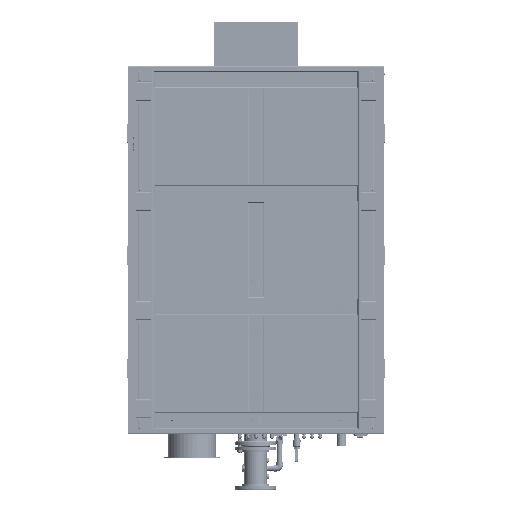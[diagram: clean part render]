
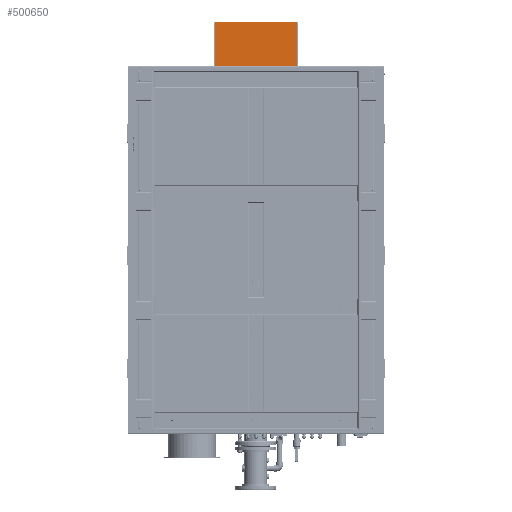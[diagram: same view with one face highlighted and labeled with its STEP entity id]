
A CAD part, front view. The second image highlights one B-rep face of the part: STEP entity #500650.
In plain terms, the highlighted planar face has unit normal (0, -1, 0) as drawn and (0, 0, -1) by its records, which use the part's own axes.
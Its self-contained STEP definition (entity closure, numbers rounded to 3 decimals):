
#6080 = ORIENTED_EDGE ( 'NONE', *, *, #734834, .F. ) ;
#25458 = LINE ( 'NONE', #768162, #167828 ) ;
#28781 = CARTESIAN_POINT ( 'NONE',  ( 254.75, -147.429, -1.5 ) ) ;
#39303 = ORIENTED_EDGE ( 'NONE', *, *, #609031, .F. ) ;
#89527 = FACE_OUTER_BOUND ( 'NONE', #434275, .T. ) ;
#144928 = EDGE_CURVE ( 'NONE', #748861, #819373, #196801, .T. ) ;
#146165 = CARTESIAN_POINT ( 'NONE',  ( 0., 0., -1.5 ) ) ;
#167828 = VECTOR ( 'NONE', #503088, 1000. ) ;
#196801 = LINE ( 'NONE', #848752, #537736 ) ;
#202787 = PLANE ( 'NONE',  #305740 ) ;
#293734 = DIRECTION ( 'NONE',  ( 0., 1., 0. ) ) ;
#305740 = AXIS2_PLACEMENT_3D ( 'NONE', #146165, #411224, #554381 ) ;
#323077 = DIRECTION ( 'NONE',  ( -1., 0., 0. ) ) ;
#326199 = CARTESIAN_POINT ( 'NONE',  ( 254.75, 147.5, -1.5 ) ) ;
#366621 = CARTESIAN_POINT ( 'NONE',  ( -254.75, -145.5, -1.5 ) ) ;
#368422 = ORIENTED_EDGE ( 'NONE', *, *, #144928, .F. ) ;
#404334 = CARTESIAN_POINT ( 'NONE',  ( 256.75, 147.5, -1.5 ) ) ;
#411224 = DIRECTION ( 'NONE',  ( 0., 0., 1. ) ) ;
#417778 = EDGE_CURVE ( 'NONE', #618080, #748861, #25458, .T. ) ;
#434275 = EDGE_LOOP ( 'NONE', ( #368422, #590542, #6080, #39303 ) ) ;
#438016 = CARTESIAN_POINT ( 'NONE',  ( -254.75, 147.5, -1.5 ) ) ;
#485884 = VERTEX_POINT ( 'NONE', #326199 ) ;
#500650 = ADVANCED_FACE ( 'NONE', ( #89527 ), #202787, .F. ) ;
#503088 = DIRECTION ( 'NONE',  ( 0., -1., 0. ) ) ;
#537736 = VECTOR ( 'NONE', #579349, 1000. ) ;
#554381 = DIRECTION ( 'NONE',  ( 1., 0., 0. ) ) ;
#554837 = VECTOR ( 'NONE', #293734, 1000. ) ;
#579349 = DIRECTION ( 'NONE',  ( 1., 0., 0. ) ) ;
#590542 = ORIENTED_EDGE ( 'NONE', *, *, #417778, .F. ) ;
#609031 = EDGE_CURVE ( 'NONE', #819373, #485884, #619714, .T. ) ;
#618080 = VERTEX_POINT ( 'NONE', #438016 ) ;
#619714 = LINE ( 'NONE', #28781, #554837 ) ;
#734834 = EDGE_CURVE ( 'NONE', #485884, #618080, #783750, .T. ) ;
#748861 = VERTEX_POINT ( 'NONE', #366621 ) ;
#768162 = CARTESIAN_POINT ( 'NONE',  ( -254.75, 147.5, -1.5 ) ) ;
#783750 = LINE ( 'NONE', #404334, #789237 ) ;
#789237 = VECTOR ( 'NONE', #323077, 1000. ) ;
#819373 = VERTEX_POINT ( 'NONE', #820662 ) ;
#820662 = CARTESIAN_POINT ( 'NONE',  ( 254.75, -145.5, -1.5 ) ) ;
#848752 = CARTESIAN_POINT ( 'NONE',  ( -256.679, -145.5, -1.5 ) ) ;
